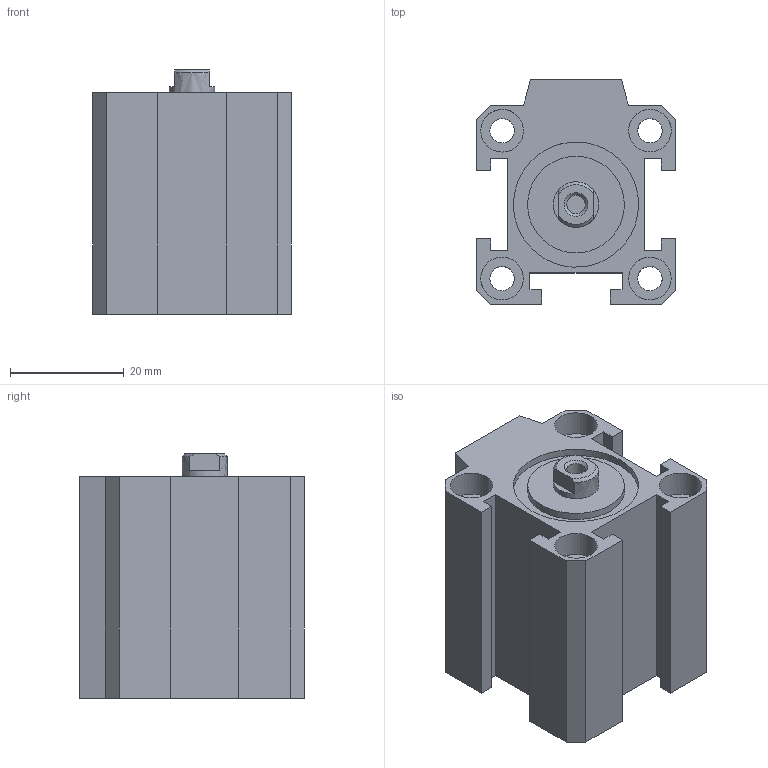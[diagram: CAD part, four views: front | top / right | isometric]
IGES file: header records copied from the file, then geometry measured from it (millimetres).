
Global section: file name: 1512_20_0010; native system: Autodesk Inventor 2014; preprocessor: unknown; author: A. Manieri; date: 20160907.103642; units: millimetre
Bounding box: 35 x 39.5 x 43 mm (x, y, z)
Volume: 33727.4 mm3; surface area: 17210.1 mm2
Topology: 2 solids, 2 shells, 90 faces, 231 edges, 163 vertices
Faces by surface type: bspline 90
